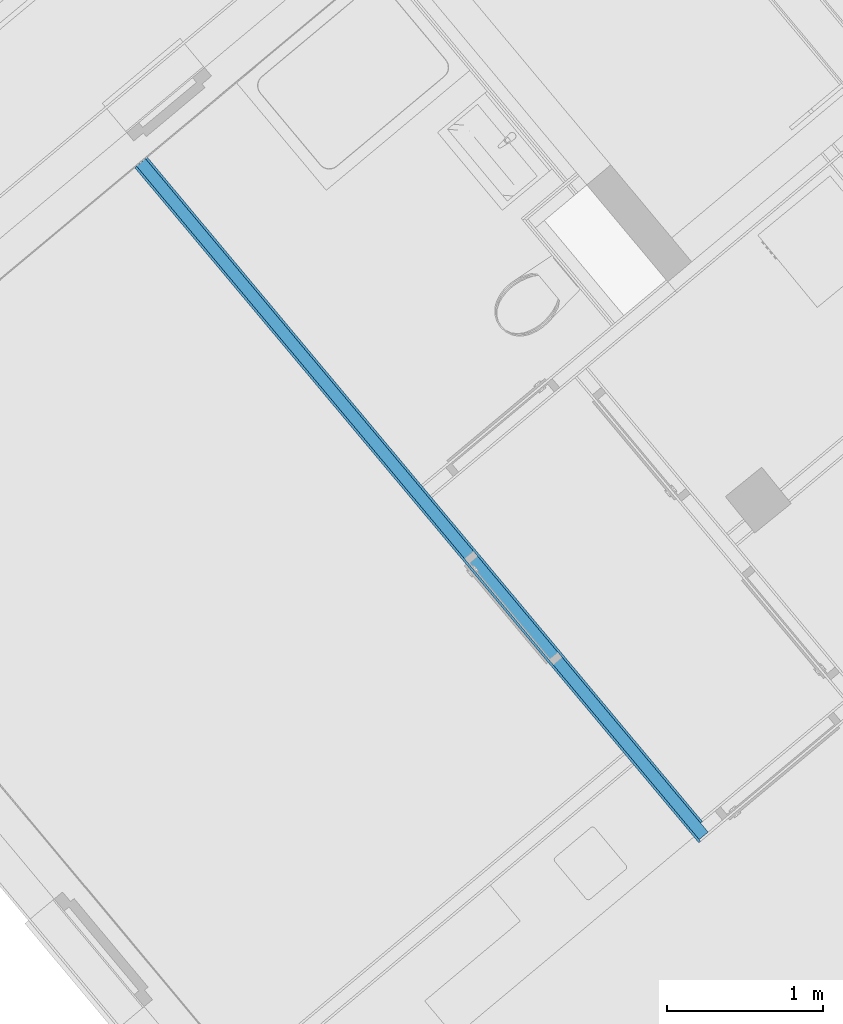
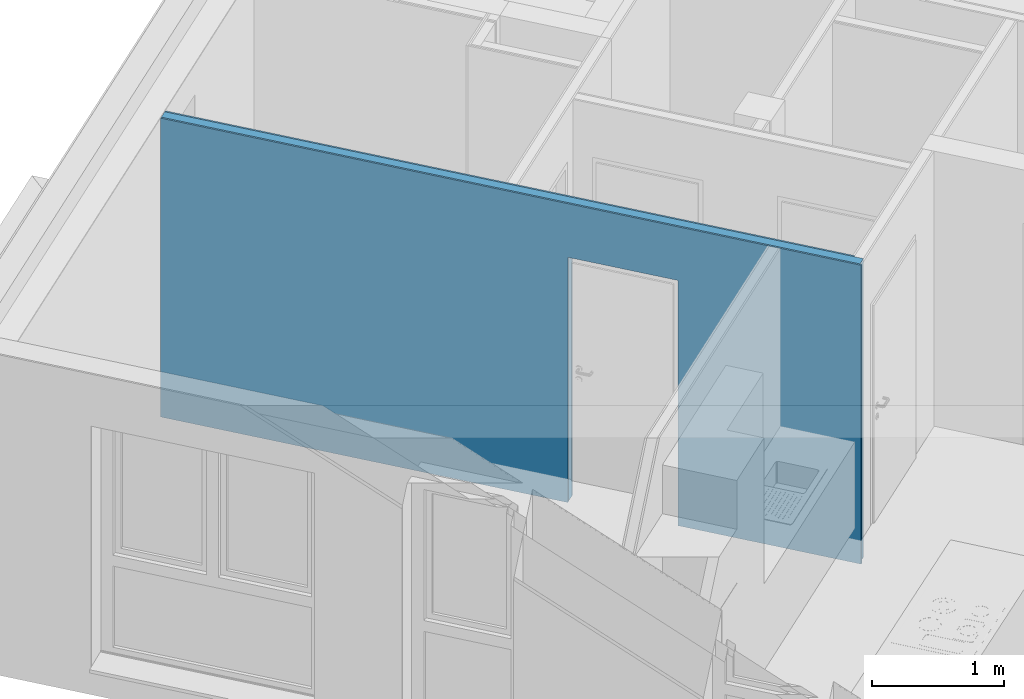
# One storey, part 3 of 58: 3 building element parts, 1 opening, 1 element without a shape of its own.
"""IFC4 building model written with IfcOpenShell, lengths in metres."""

import ifcopenshell
import ifcopenshell.guid

model = None  # the IFC model being written
_history = None  # IfcOwnerHistory: only IFC2X3 demands one
_inside = {}  # id of a spatial element -> (the spatial element, [elements in it])
_under = {}  # id of a project, library or spatial element -> (it, [spatial elements below it])
_declared = {}  # id of a project -> (the project, [libraries it declares])
_typed = {}  # id of a type object -> (the type object, [elements of that type])
_made_of = {}  # id of a material, layer set ... -> (it, [elements and type objects made of it])


def new_model(schema):
    """Start an empty IFC model of exactly this schema.

    Asked for "IFC4X3", IfcOpenShell would pick the latest addendum, in which some entities
    have other attributes; the version numbers below select the first issue.
    IFC2X3 requires an IfcOwnerHistory on every rooted entity: one is made here for all.
    """
    global model, _history
    if schema == "IFC4X3":
        model = ifcopenshell.file(schema_version=(4, 3, 0, 0))
    else:
        model = ifcopenshell.file(schema=schema)
    _inside.clear()
    _under.clear()
    _declared.clear()
    _typed.clear()
    _made_of.clear()
    _history = None
    if model.schema == "IFC2X3":
        org = make("IfcOrganization", Name="unknown")
        user = make(
            "IfcPersonAndOrganization",
            ThePerson=make("IfcPerson", FamilyName="unknown"),
            TheOrganization=org,
        )
        app = make(
            "IfcApplication",
            ApplicationDeveloper=org,
            Version="unknown",
            ApplicationFullName="unknown",
            ApplicationIdentifier="unknown",
        )
        _history = make(
            "IfcOwnerHistory",
            OwningUser=user,
            OwningApplication=app,
            ChangeAction="ADDED",
            CreationDate=0,
        )
    return model


def make(cls, **values):
    """One entity of the class cls with the attributes given. An attribute that is None is left unset."""
    return model.create_entity(
        cls, **{name: value for name, value in values.items() if value is not None}
    )


def entity(cls, *values):
    """Any entity or typed value of the class cls, its attributes in the order of the schema. None: left unset."""
    e = model.create_entity(cls)
    for i, value in enumerate(values):
        if value is not None:
            e[i] = value
    return e


def rooted(cls, **values):
    """An entity with a GlobalId (a new one), such as an element, a storey or a relation."""
    return make(cls, GlobalId=ifcopenshell.guid.new(), OwnerHistory=_history, **values)


def si_unit(unit_type, name, prefix=None):
    """IfcSIUnit, for example si_unit("LENGTHUNIT", "METRE", prefix="MILLI")."""
    return make("IfcSIUnit", UnitType=unit_type, Prefix=prefix, Name=name)


def converted_unit(unit_type, name, factor, base, dimensions=None, offset=None):
    """IfcConversionBasedUnit, such as the inch: factor (a typed value) times the base unit."""
    return make(
        "IfcConversionBasedUnit"
        if offset is None
        else "IfcConversionBasedUnitWithOffset",
        ConversionOffset=offset,
        Dimensions=None
        if dimensions is None
        else entity("IfcDimensionalExponents", *dimensions),
        UnitType=unit_type,
        Name=name,
        ConversionFactor=make(
            "IfcMeasureWithUnit", ValueComponent=factor, UnitComponent=base
        ),
    )


def derived_unit(unit_type, elements):
    """IfcDerivedUnit: a product of units, each with its exponent."""
    return make(
        "IfcDerivedUnit",
        Elements=[
            make("IfcDerivedUnitElement", Unit=unit, Exponent=power)
            for unit, power in elements
        ],
        UnitType=unit_type,
    )


def assignment(units):
    """IfcUnitAssignment: the units of a project."""
    return None if units is None else make("IfcUnitAssignment", Units=units)


def point(xyz):
    """IfcCartesianPoint."""
    return None if xyz is None else make("IfcCartesianPoint", Coordinates=xyz)


def direction(xyz):
    """IfcDirection."""
    return None if xyz is None else make("IfcDirection", DirectionRatios=xyz)


def frame(location, z_axis=None, x_axis=None):
    """IfcAxis2Placement3D, a coordinate frame: its origin and axes. An axis left out is left unset."""
    return make(
        "IfcAxis2Placement3D",
        Location=point(location),
        Axis=direction(z_axis),
        RefDirection=direction(x_axis),
    )


def origin_with_axes():
    """The frame at (0, 0, 0) with the z axis (0, 0, 1) and the x axis (1, 0, 0) written out."""
    return frame((0.0, 0.0, 0.0), z_axis=(0.0, 0.0, 1.0), x_axis=(1.0, 0.0, 0.0))


def place(relative_to, where):
    """IfcLocalPlacement: puts the frame where relative to a parent placement (None: the world)."""
    return make(
        "IfcLocalPlacement", PlacementRelTo=relative_to, RelativePlacement=where
    )


def context(
    kind, dimensions, precision=None, world=None, true_north=None, identifier=None
):
    """IfcGeometricRepresentationContext, for example the 3D "Model" context."""
    return make(
        "IfcGeometricRepresentationContext",
        ContextIdentifier=identifier,
        ContextType=kind,
        CoordinateSpaceDimension=dimensions,
        Precision=precision,
        WorldCoordinateSystem=world,
        TrueNorth=true_north,
    )


def subcontext(parent, identifier, kind, view, scale=None):
    """IfcGeometricRepresentationSubContext, for example "Body" below "Model"."""
    return make(
        "IfcGeometricRepresentationSubContext",
        ContextIdentifier=identifier,
        ContextType=kind,
        ParentContext=parent,
        TargetScale=scale,
        TargetView=view,
    )


def project(units=None, contexts=None):
    """IfcProject with its units and contexts."""
    return rooted(
        "IfcProject",
        Name="project",
        RepresentationContexts=contexts,
        UnitsInContext=assignment(units),
    )


def spatial(cls, under=None, at=None, **own):
    """A site, building, storey or space (cls), placed at a placement, below another one or the project."""
    s = rooted(cls, ObjectPlacement=at, **own)
    if under is not None:
        _under.setdefault(under.id(), (under, []))[1].append(s)
    return s


def point_list(points):
    """IfcCartesianPointList2D or 3D."""
    cls = (
        "IfcCartesianPointList2D" if len(points[0]) == 2 else "IfcCartesianPointList3D"
    )
    return make(cls, CoordList=points)


def polygons(points, faces, closed=None, point_numbers=None):
    """IfcPolygonalFaceSet: a face is its outer loop, then its inner loops; points numbered from 1."""
    made = []
    for loops in faces:
        if len(loops) == 1:
            made.append(make("IfcIndexedPolygonalFace", CoordIndex=loops[0]))
        else:
            made.append(
                make(
                    "IfcIndexedPolygonalFaceWithVoids",
                    CoordIndex=loops[0],
                    InnerCoordIndices=loops[1:],
                )
            )
    return make(
        "IfcPolygonalFaceSet",
        Coordinates=point_list(points),
        Closed=closed,
        Faces=made,
        PnIndex=point_numbers,
    )


def shape(context_of_items, identifier, shape_type, items):
    """IfcShapeRepresentation: the items that make up one representation, for example the "Body"."""
    return make(
        "IfcShapeRepresentation",
        ContextOfItems=context_of_items,
        RepresentationIdentifier=identifier,
        RepresentationType=shape_type,
        Items=items,
    )


def material(Name=None, Category=None):
    """IfcMaterial."""
    return make("IfcMaterial", Name=Name, Category=Category)


def made_of(thing, what):
    """Note that an element or type object is made of a material, layer set ...; save() writes the relation."""
    if what is not None:
        _made_of.setdefault(what.id(), (what, []))[1].append(thing)
    return thing


def type_object(cls, material=None, **own):
    """A type object (cls), such as IfcWallType, which elements share."""
    return made_of(rooted(cls, **own), material)


def element(
    cls,
    number,
    at=None,
    inside=None,
    cuts=None,
    type_object=None,
    material=None,
    context=None,
    identifier="Body",
    shape_type=None,
    held_by="IfcProductDefinitionShape",
    body=None,
    shapes=None,
    **own,
):
    """One element of the class cls, such as IfcWall. Its Tag is "e" and its number.

    at: its placement. inside: the storey or other place that contains it. cuts: it is an
    opening in that element (IfcRelVoidsElement). A single representation is given by context,
    identifier, shape_type and body (its items); several are given by shapes. held_by: the class
    of the entity that holds the representations. save() writes the other relations.
    """
    e = rooted(cls, Tag="e%d" % number, ObjectPlacement=at, **own)
    if body is not None:
        shapes = [shape(context, identifier, shape_type, body)]
    if shapes is not None:
        e.Representation = make(held_by, Representations=shapes)
    if inside is not None:
        _inside.setdefault(inside.id(), (inside, []))[1].append(e)
    if cuts is not None:
        rooted(
            "IfcRelVoidsElement", RelatingBuildingElement=cuts, RelatedOpeningElement=e
        )
    if type_object is not None:
        _typed.setdefault(type_object.id(), (type_object, []))[1].append(e)
    return made_of(e, material)


def aggregate(whole, parts):
    """IfcRelAggregates: a whole, such as a stair, and the parts it consists of."""
    return rooted("IfcRelAggregates", RelatingObject=whole, RelatedObjects=parts)


def save(model, path):
    """Write the relations noted so far, then the file.

    IfcRelAggregates (storeys below a building ...), IfcRelContainedInSpatialStructure (elements
    in a storey), IfcRelDefinesByType, IfcRelAssociatesMaterial and IfcRelDeclares: one each for
    every whole, place, type object, material and project.
    """
    for whole, parts in _under.values():
        aggregate(whole, parts)
    for where, things in _inside.values():
        rooted(
            "IfcRelContainedInSpatialStructure",
            RelatedElements=things,
            RelatingStructure=where,
        )
    for kind, things in _typed.values():
        rooted("IfcRelDefinesByType", RelatedObjects=things, RelatingType=kind)
    for what, things in _made_of.values():
        rooted("IfcRelAssociatesMaterial", RelatedObjects=things, RelatingMaterial=what)
    for by, libraries in _declared.values():
        rooted("IfcRelDeclares", RelatingContext=by, RelatedDefinitions=libraries)
    model.write(path)


model = new_model("IFC4")

# Units and contexts
model_context = context("Model", 3, precision=1e-05, world=origin_with_axes(), true_north=direction((0.0, 1.0)))
body_context = subcontext(model_context, "Body", "Model", "MODEL_VIEW")
ifc_project = project(units=[si_unit("LENGTHUNIT", "METRE"), si_unit("AREAUNIT", "SQUARE_METRE"), si_unit("VOLUMEUNIT", "CUBIC_METRE"), converted_unit("PLANEANGLEUNIT", "DEGREE", entity("IfcPlaneAngleMeasure", 0.0174532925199), si_unit("PLANEANGLEUNIT", "RADIAN"), dimensions=[0, 0, 0, 0, 0, 0, 0]), converted_unit("TIMEUNIT", "Year", entity("IfcTimeMeasure", 31556926.0), si_unit("TIMEUNIT", "SECOND"), dimensions=[0, 0, 1, 0, 0, 0, 0]), si_unit("MASSUNIT", "GRAM", prefix="KILO"), si_unit("THERMODYNAMICTEMPERATUREUNIT", "DEGREE_CELSIUS"), si_unit("LUMINOUSINTENSITYUNIT", "LUMEN"), si_unit("ENERGYUNIT", "JOULE", prefix="MEGA"), derived_unit("THERMALCONDUCTANCEUNIT", [(si_unit("POWERUNIT", "WATT"), 1), (si_unit("LENGTHUNIT", "METRE"), -1), (si_unit("THERMODYNAMICTEMPERATUREUNIT", "KELVIN"), -1)]), derived_unit("SPECIFICHEATCAPACITYUNIT", [(si_unit("ENERGYUNIT", "JOULE"), 1), (si_unit("MASSUNIT", "GRAM", prefix="KILO"), -1), (si_unit("THERMODYNAMICTEMPERATUREUNIT", "KELVIN"), -1)]), derived_unit("MASSDENSITYUNIT", [(si_unit("MASSUNIT", "GRAM", prefix="KILO"), 1), (si_unit("VOLUMEUNIT", "CUBIC_METRE"), -1)])], contexts=[model_context])

# Site, building, storey
site_placement = place(None, frame((-0.00153261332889, -0.00661245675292, 0.0), z_axis=(0.0, 0.0, 1.0), x_axis=(1.0, 0.0, 0.0)))
site = spatial("IfcSite", under=ifc_project, at=site_placement, Name="Site", CompositionType="ELEMENT")
building_placement = place(site_placement, origin_with_axes())
building = spatial("IfcBuilding", under=site, at=building_placement, Name="Building", CompositionType="ELEMENT")
storey_placement = place(building_placement, frame((0.0, 0.0, 5.7), z_axis=(0.0, 0.0, 1.0), x_axis=(1.0, 0.0, 0.0)))
storey = spatial("IfcBuildingStorey", under=building, at=storey_placement, Name="DG1", CompositionType="ELEMENT", Elevation=5.7)

# Wall, opening, building element parts
wall_type = type_object("IfcWallType", Name="IW LB 01 Leichtbautrennwand einfach 10,5 cm 105", PredefinedType="NOTDEFINED")
wall_placement = place(storey_placement, frame((-5.90501544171, 21.3396701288, 0.0), z_axis=(0.0, 0.0, 1.0), x_axis=(0.641209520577, -0.767365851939, 0.0)))
wall = element("IfcWall", 1, at=wall_placement, inside=storey, type_object=wall_type, Name="Wand-012", PredefinedType="NOTDEFINED")
opening_placement = place(wall_placement, frame((4.14617434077, 0.0, 0.22), z_axis=(0.0, 0.0, 1.0), x_axis=(1.0, 0.0, 0.0)))
element("IfcOpeningElement", 2, at=opening_placement, cuts=wall, Name="Tür-016", context=body_context, identifier="Reference", shape_type="Tessellation", body=[
    polygons([(0.445, 3.03878643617, 2.045), (0.445, 3.03878643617, -0.22), (-0.445, 3.03878643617, -0.22), (-0.445, 3.03878643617, 2.045), (0.445, -2.93378643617, 2.045), (0.445, -2.93378643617, -0.22), (-0.445, -2.93378643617, -0.22), (-0.445, -2.93378643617, 2.045)], [[[1, 2, 3, 4]], [[5, 6, 2, 1]], [[6, 7, 3, 2]], [[7, 8, 4, 3]], [[8, 5, 1, 4]], [[7, 6, 5, 8]]], closed=True),
])
ifc_material_1 = material(Name="Gipskarton")
building_element_part_1_placement = place(wall_placement, origin_with_axes())
building_element_part_1 = element("IfcBuildingElementPart", 3, at=building_element_part_1_placement, material=ifc_material_1, Name="Gipskarton", PredefinedType="NOTDEFINED", context=body_context, shape_type="Tessellation", body=[
    polygons([(3.70117434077, 0.105, 2.265), (3.70117434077, 0.105, 0.22), (3.7011743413, 0.105, 0.0), (0.419999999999, 0.105, 0.0), (0.419999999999, 0.105, 2.76), (5.97543570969, 0.105, 2.76), (5.97543570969, 0.105, 0.0), (4.59117434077, 0.105, 0.0), (4.59117434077, 0.105, 0.22), (4.59117434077, 0.105, 2.265), (3.70117434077, 0.09, 2.265), (3.70117434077, 0.09, 0.22), (3.70117434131, 0.09, 0.0), (0.419999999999, 0.09, 0.0), (0.419999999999, 0.09, 2.76), (5.97543570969, 0.09, 2.76), (5.97543570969, 0.09, 0.0), (4.59117434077, 0.09, 0.0), (4.59117434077, 0.09, 0.22), (4.59117434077, 0.09, 2.265)], [[[1, 2, 3, 4, 5, 6, 7, 8, 9, 10]], [[2, 1, 11, 12]], [[2, 12, 13, 3]], [[13, 14, 4, 3]], [[4, 14, 15, 5]], [[6, 5, 15, 16]], [[7, 6, 16, 17]], [[8, 7, 17, 18]], [[19, 9, 8, 18]], [[10, 9, 19, 20]], [[1, 10, 20, 11]], [[20, 19, 18, 17, 16, 15, 14, 13, 12, 11]]], closed=True),
])
ifc_material_2 = material(Name="Mineralwolle weich")
building_element_part_2_placement = place(wall_placement, origin_with_axes())
building_element_part_2 = element("IfcBuildingElementPart", 4, at=building_element_part_2_placement, material=ifc_material_2, Name="Mineralwolle weich", PredefinedType="NOTDEFINED", context=body_context, shape_type="Tessellation", body=[
    polygons([(3.70117434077, 0.09, 2.265), (3.70117434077, 0.09, 0.22), (3.70117434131, 0.09, 0.0), (0.419999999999, 0.09, 0.0), (0.419999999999, 0.09, 2.76), (6.05043570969, 0.09, 2.76), (6.05043570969, 0.09, 0.0), (4.59117434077, 0.09, 0.0), (4.59117434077, 0.09, 0.22), (4.59117434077, 0.09, 2.265), (3.70117434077, 0.015, 2.265), (3.70117434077, 0.015, 0.22), (3.70117434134, 0.015, 0.0), (0.419999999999, 0.015, 0.0), (0.419999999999, 0.015, 2.76), (6.0504357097, 0.015, 2.76), (6.0504357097, 0.015, 0.0), (4.59117434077, 0.015, 0.0), (4.59117434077, 0.015, 0.22), (4.59117434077, 0.015, 2.265)], [[[1, 2, 3, 4, 5, 6, 7, 8, 9, 10]], [[2, 1, 11, 12]], [[2, 12, 13, 3]], [[13, 14, 4, 3]], [[4, 14, 15, 5]], [[6, 5, 15, 16]], [[7, 6, 16, 17]], [[8, 7, 17, 18]], [[19, 9, 8, 18]], [[10, 9, 19, 20]], [[1, 10, 20, 11]], [[20, 19, 18, 17, 16, 15, 14, 13, 12, 11]]], closed=True),
])
building_element_part_3_placement = place(wall_placement, origin_with_axes())
building_element_part_3 = element("IfcBuildingElementPart", 5, at=building_element_part_3_placement, material=ifc_material_1, Name="Gipskarton", PredefinedType="NOTDEFINED", context=body_context, shape_type="Tessellation", body=[
    polygons([(3.70117434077, 0.015, 2.265), (3.70117434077, 0.015, 0.22), (3.70117434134, 0.015, 0.0), (0.419999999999, 0.015, 0.0), (0.419999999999, 0.015, 2.76), (6.0654357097, 0.015, 2.76), (6.0654357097, 0.015, 0.0), (4.59117434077, 0.015, 0.0), (4.59117434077, 0.015, 0.22), (4.59117434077, 0.015, 2.265), (3.70117434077, -2.18705835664e-08, 2.265), (3.70117434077, -2.35908661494e-08, 0.22), (3.70117434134, -2.35908661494e-08, 0.0), (0.419999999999, 0.0, 0.0), (0.419999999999, 0.0, 2.76), (6.0654357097, 0.0, 2.76), (6.0654357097, 0.0, 0.0), (4.59117434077, -2.18705853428e-08, 0.0), (4.59117434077, -2.18705835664e-08, 0.22), (4.59117434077, -2.18705835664e-08, 2.265)], [[[1, 2, 3, 4, 5, 6, 7, 8, 9, 10]], [[2, 1, 11, 12]], [[2, 12, 13, 3]], [[13, 14, 4, 3]], [[4, 14, 15, 5]], [[6, 5, 15, 16]], [[7, 6, 16, 17]], [[8, 7, 17, 18]], [[19, 9, 8, 18]], [[10, 9, 19, 20]], [[1, 10, 20, 11]], [[20, 19, 18, 17, 16, 15, 14, 13, 12, 11]]], closed=True),
])
aggregate(wall, [building_element_part_1, building_element_part_2, building_element_part_3])

save(model, "model.ifc")
